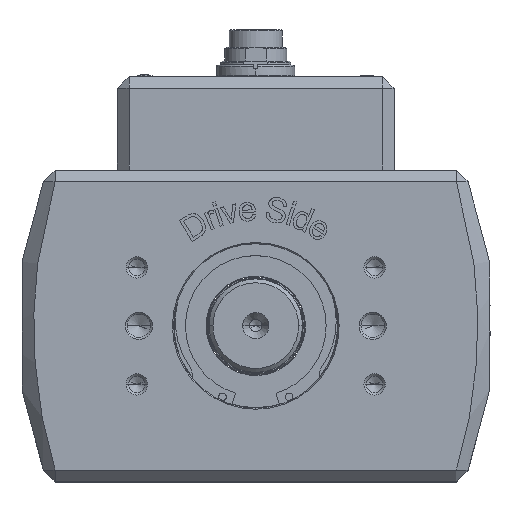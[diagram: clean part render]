
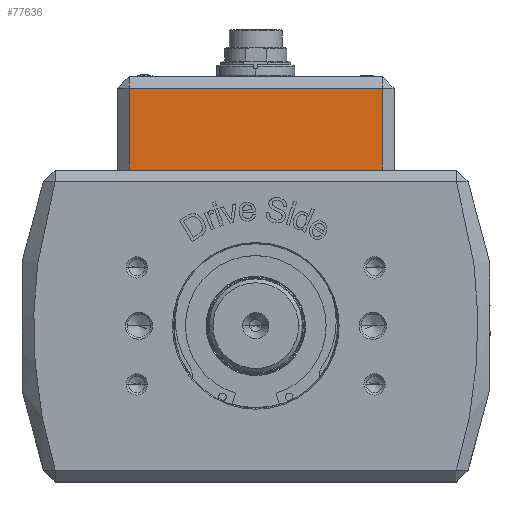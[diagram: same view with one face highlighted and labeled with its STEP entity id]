
A CAD part, top view. The second image highlights one B-rep face of the part: STEP entity #77636.
In plain terms, the highlighted planar face has unit normal (0, 0, 1).
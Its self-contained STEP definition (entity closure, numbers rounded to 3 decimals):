
#1132 = DIRECTION ( 'NONE',  ( -1., 0., 0. ) ) ;
#5045 = DIRECTION ( 'NONE',  ( 0., -1., 0. ) ) ;
#7590 = ORIENTED_EDGE ( 'NONE', *, *, #128406, .T. ) ;
#8002 = CARTESIAN_POINT ( 'NONE',  ( -32.5, 61., 25. ) ) ;
#13469 = ORIENTED_EDGE ( 'NONE', *, *, #46711, .T. ) ;
#22358 = VERTEX_POINT ( 'NONE', #8002 ) ;
#25426 = EDGE_CURVE ( 'NONE', #112686, #22358, #35427, .T. ) ;
#25862 = CARTESIAN_POINT ( 'NONE',  ( -35.5, 40., 25. ) ) ;
#28494 = VECTOR ( 'NONE', #125518, 1000. ) ;
#29851 = CARTESIAN_POINT ( 'NONE',  ( 32.5, 40., 25. ) ) ;
#34359 = PLANE ( 'NONE',  #117463 ) ;
#35427 = LINE ( 'NONE', #80475, #28494 ) ;
#37565 = LINE ( 'NONE', #127644, #43698 ) ;
#43698 = VECTOR ( 'NONE', #5045, 1000. ) ;
#46711 = EDGE_CURVE ( 'NONE', #90548, #112686, #108018, .T. ) ;
#51350 = VECTOR ( 'NONE', #96950, 1000. ) ;
#60320 = VECTOR ( 'NONE', #60533, 1000. ) ;
#60533 = DIRECTION ( 'NONE',  ( 1., 0., 0. ) ) ;
#61447 = VERTEX_POINT ( 'NONE', #101688 ) ;
#66124 = FACE_OUTER_BOUND ( 'NONE', #128809, .T. ) ;
#66858 = DIRECTION ( 'NONE',  ( 0., 0., -1. ) ) ;
#70994 = ORIENTED_EDGE ( 'NONE', *, *, #25426, .T. ) ;
#77636 = ADVANCED_FACE ( 'NONE', ( #66124 ), #34359, .F. ) ;
#78270 = CARTESIAN_POINT ( 'NONE',  ( 32.5, 64., 25. ) ) ;
#80475 = CARTESIAN_POINT ( 'NONE',  ( -35.5, 61., 25. ) ) ;
#90548 = VERTEX_POINT ( 'NONE', #29851 ) ;
#96950 = DIRECTION ( 'NONE',  ( 0., 1., 0. ) ) ;
#101688 = CARTESIAN_POINT ( 'NONE',  ( -32.5, 40., 25. ) ) ;
#108018 = LINE ( 'NONE', #78270, #51350 ) ;
#109660 = ORIENTED_EDGE ( 'NONE', *, *, #132108, .T. ) ;
#112502 = CARTESIAN_POINT ( 'NONE',  ( 32.5, 61., 25. ) ) ;
#112686 = VERTEX_POINT ( 'NONE', #112502 ) ;
#117463 = AXIS2_PLACEMENT_3D ( 'NONE', #124429, #66858, #1132 ) ;
#124429 = CARTESIAN_POINT ( 'NONE',  ( -35.5, 64., 25. ) ) ;
#125518 = DIRECTION ( 'NONE',  ( -1., 0., 0. ) ) ;
#127644 = CARTESIAN_POINT ( 'NONE',  ( -32.5, 64., 25. ) ) ;
#128406 = EDGE_CURVE ( 'NONE', #22358, #61447, #37565, .T. ) ;
#128809 = EDGE_LOOP ( 'NONE', ( #109660, #13469, #70994, #7590 ) ) ;
#132108 = EDGE_CURVE ( 'NONE', #61447, #90548, #137382, .T. ) ;
#137382 = LINE ( 'NONE', #25862, #60320 ) ;
